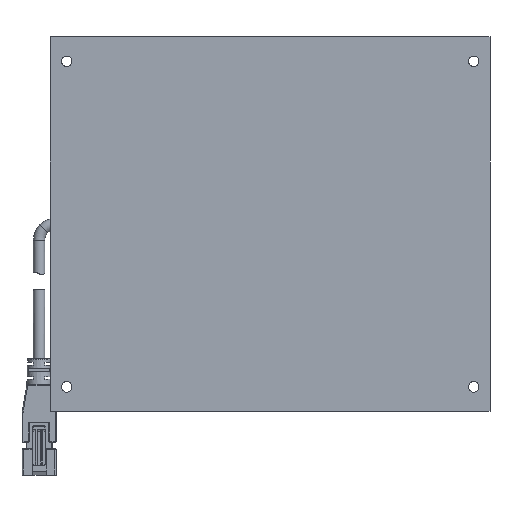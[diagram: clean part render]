
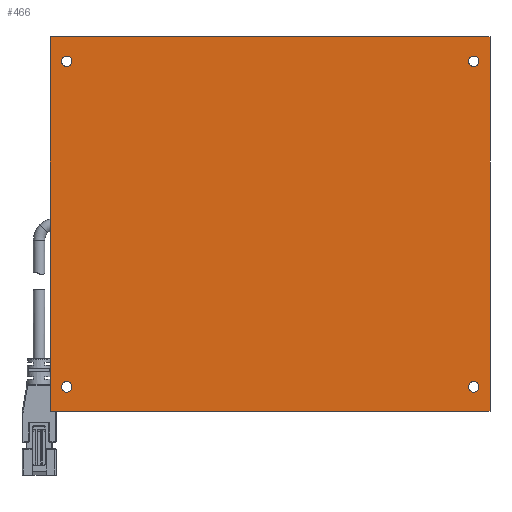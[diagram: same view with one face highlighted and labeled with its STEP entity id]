
A CAD part, front view. The second image highlights one B-rep face of the part: STEP entity #466.
In plain terms, the highlighted planar face has unit normal (0, -1, 0).
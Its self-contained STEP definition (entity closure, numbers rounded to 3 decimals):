
#1=CARTESIAN_POINT('',(-62.5,0.,-50.));
#2=DIRECTION('',(0.,-1.,0.));
#3=DIRECTION('',(1.,0.,0.));
#4=AXIS2_PLACEMENT_3D('',#1,#2,#3);
#6=CARTESIAN_POINT('',(-62.5,0.,-50.));
#7=DIRECTION('',(0.,-1.,0.));
#8=DIRECTION('',(-1.,0.,0.));
#9=AXIS2_PLACEMENT_3D('',#6,#7,#8);
#11=CARTESIAN_POINT('',(-62.5,0.,50.));
#12=DIRECTION('',(0.,-1.,0.));
#13=DIRECTION('',(-1.,0.,0.));
#14=AXIS2_PLACEMENT_3D('',#11,#12,#13);
#16=CARTESIAN_POINT('',(-62.5,0.,50.));
#17=DIRECTION('',(0.,-1.,0.));
#18=DIRECTION('',(1.,0.,0.));
#19=AXIS2_PLACEMENT_3D('',#16,#17,#18);
#21=CARTESIAN_POINT('',(62.5,0.,-50.));
#22=DIRECTION('',(0.,-1.,0.));
#23=DIRECTION('',(1.,0.,0.));
#24=AXIS2_PLACEMENT_3D('',#21,#22,#23);
#26=CARTESIAN_POINT('',(62.5,0.,-50.));
#27=DIRECTION('',(0.,-1.,0.));
#28=DIRECTION('',(-1.,0.,0.));
#29=AXIS2_PLACEMENT_3D('',#26,#27,#28);
#31=CARTESIAN_POINT('',(62.5,0.,50.));
#32=DIRECTION('',(0.,-1.,0.));
#33=DIRECTION('',(-1.,0.,0.));
#34=AXIS2_PLACEMENT_3D('',#31,#32,#33);
#36=CARTESIAN_POINT('',(62.5,0.,50.));
#37=DIRECTION('',(0.,-1.,0.));
#38=DIRECTION('',(1.,0.,0.));
#39=AXIS2_PLACEMENT_3D('',#36,#37,#38);
#41=DIRECTION('',(0.,0.,-1.));
#42=VECTOR('',#41,115.);
#43=CARTESIAN_POINT('',(-67.5,0.,57.5));
#44=LINE('',#43,#42);
#57=DIRECTION('',(1.,0.,0.));
#58=VECTOR('',#57,135.);
#59=CARTESIAN_POINT('',(-67.5,0.,-57.5));
#60=LINE('',#59,#58);
#109=DIRECTION('',(-1.,0.,0.));
#110=VECTOR('',#109,135.);
#111=CARTESIAN_POINT('',(67.5,0.,57.5));
#112=LINE('',#111,#110);
#303=DIRECTION('',(0.,0.,1.));
#304=VECTOR('',#303,115.);
#305=CARTESIAN_POINT('',(67.5,0.,-57.5));
#306=LINE('',#305,#304);
#327=CARTESIAN_POINT('',(-67.5,0.,57.5));
#328=CARTESIAN_POINT('',(-67.5,0.,-57.5));
#329=VERTEX_POINT('',#327);
#330=VERTEX_POINT('',#328);
#331=CARTESIAN_POINT('',(67.5,0.,57.5));
#332=VERTEX_POINT('',#331);
#333=CARTESIAN_POINT('',(67.5,0.,-57.5));
#334=VERTEX_POINT('',#333);
#335=CARTESIAN_POINT('',(-60.9,0.,-50.));
#336=CARTESIAN_POINT('',(-64.1,0.,-50.));
#337=VERTEX_POINT('',#335);
#338=VERTEX_POINT('',#336);
#339=CARTESIAN_POINT('',(-64.1,0.,50.));
#340=CARTESIAN_POINT('',(-60.9,0.,50.));
#341=VERTEX_POINT('',#339);
#342=VERTEX_POINT('',#340);
#343=CARTESIAN_POINT('',(64.1,0.,-50.));
#344=CARTESIAN_POINT('',(60.9,0.,-50.));
#345=VERTEX_POINT('',#343);
#346=VERTEX_POINT('',#344);
#347=CARTESIAN_POINT('',(60.9,0.,50.));
#348=CARTESIAN_POINT('',(64.1,0.,50.));
#349=VERTEX_POINT('',#347);
#350=VERTEX_POINT('',#348);
#427=CARTESIAN_POINT('',(0.,0.,0.));
#428=DIRECTION('',(0.,1.,0.));
#429=DIRECTION('',(1.,0.,0.));
#430=AXIS2_PLACEMENT_3D('',#427,#428,#429);
#431=PLANE('',#430);
#433=ORIENTED_EDGE('',*,*,#432,.F.);
#435=ORIENTED_EDGE('',*,*,#434,.F.);
#437=ORIENTED_EDGE('',*,*,#436,.F.);
#439=ORIENTED_EDGE('',*,*,#438,.F.);
#440=EDGE_LOOP('',(#433,#435,#437,#439));
#441=FACE_OUTER_BOUND('',#440,.F.);
#443=ORIENTED_EDGE('',*,*,#442,.T.);
#445=ORIENTED_EDGE('',*,*,#444,.T.);
#446=EDGE_LOOP('',(#443,#445));
#447=FACE_BOUND('',#446,.F.);
#449=ORIENTED_EDGE('',*,*,#448,.T.);
#451=ORIENTED_EDGE('',*,*,#450,.T.);
#452=EDGE_LOOP('',(#449,#451));
#453=FACE_BOUND('',#452,.F.);
#455=ORIENTED_EDGE('',*,*,#454,.T.);
#457=ORIENTED_EDGE('',*,*,#456,.T.);
#458=EDGE_LOOP('',(#455,#457));
#459=FACE_BOUND('',#458,.F.);
#461=ORIENTED_EDGE('',*,*,#460,.T.);
#463=ORIENTED_EDGE('',*,*,#462,.T.);
#464=EDGE_LOOP('',(#461,#463));
#465=FACE_BOUND('',#464,.F.);
#5=CIRCLE('',#4,1.6);
#10=CIRCLE('',#9,1.6);
#15=CIRCLE('',#14,1.6);
#20=CIRCLE('',#19,1.6);
#25=CIRCLE('',#24,1.6);
#30=CIRCLE('',#29,1.6);
#35=CIRCLE('',#34,1.6);
#40=CIRCLE('',#39,1.6);
#432=EDGE_CURVE('',#329,#330,#44,.T.);
#434=EDGE_CURVE('',#332,#329,#112,.T.);
#436=EDGE_CURVE('',#334,#332,#306,.T.);
#438=EDGE_CURVE('',#330,#334,#60,.T.);
#442=EDGE_CURVE('',#337,#338,#5,.T.);
#444=EDGE_CURVE('',#338,#337,#10,.T.);
#448=EDGE_CURVE('',#341,#342,#15,.T.);
#450=EDGE_CURVE('',#342,#341,#20,.T.);
#454=EDGE_CURVE('',#345,#346,#25,.T.);
#456=EDGE_CURVE('',#346,#345,#30,.T.);
#460=EDGE_CURVE('',#349,#350,#35,.T.);
#462=EDGE_CURVE('',#350,#349,#40,.T.);
#466=ADVANCED_FACE('',(#441,#447,#453,#459,#465),#431,.F.);
